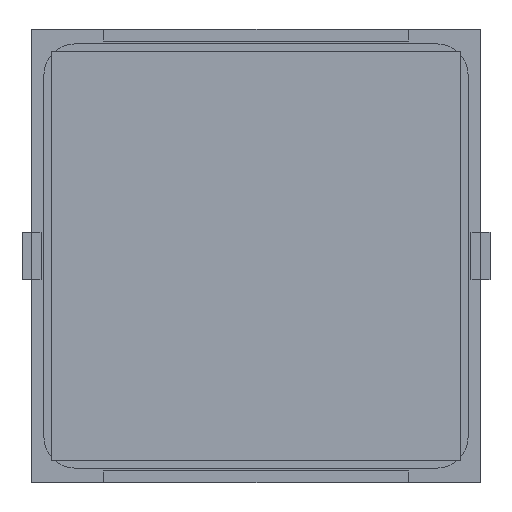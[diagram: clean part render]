
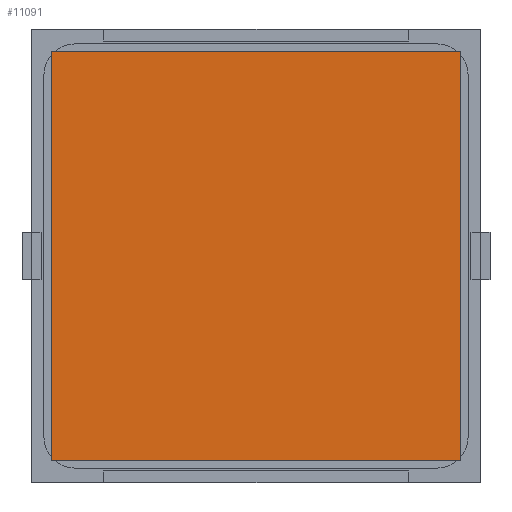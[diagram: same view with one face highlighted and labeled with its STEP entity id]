
A CAD part, front view. The second image highlights one B-rep face of the part: STEP entity #11091.
In plain terms, the highlighted planar face has unit normal (0, -1, 0).
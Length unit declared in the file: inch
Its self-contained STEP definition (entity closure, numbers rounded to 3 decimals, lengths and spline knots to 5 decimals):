
#184 = FACE_OUTER_BOUND ( 'NONE', #9844, .T. ) ;
#922 = CARTESIAN_POINT ( 'NONE',  ( -0.84646, -0.005, -0.84646 ) ) ;
#1029 = VERTEX_POINT ( 'NONE', #4645 ) ;
#1493 = EDGE_CURVE ( 'NONE', #12720, #1029, #10966, .T. ) ;
#1617 = EDGE_CURVE ( 'NONE', #1029, #6327, #4085, .T. ) ;
#2256 = VECTOR ( 'NONE', #6240, 39.37008 ) ;
#2375 = CARTESIAN_POINT ( 'NONE',  ( -0.84646, -0.005, 0.84646 ) ) ;
#2967 = CARTESIAN_POINT ( 'NONE',  ( -0.84646, -0.005, -0.84646 ) ) ;
#3098 = ORIENTED_EDGE ( 'NONE', *, *, #1617, .F. ) ;
#3218 = DIRECTION ( 'NONE',  ( -1., 0., 0. ) ) ;
#3318 = PLANE ( 'NONE',  #5033 ) ;
#3844 = VERTEX_POINT ( 'NONE', #2375 ) ;
#3849 = DIRECTION ( 'NONE',  ( 0., 0., 1. ) ) ;
#4085 = LINE ( 'NONE', #2967, #10243 ) ;
#4645 = CARTESIAN_POINT ( 'NONE',  ( 0.84646, -0.005, -0.84646 ) ) ;
#4928 = CARTESIAN_POINT ( 'NONE',  ( 0.84646, -0.005, -0.84646 ) ) ;
#5033 = AXIS2_PLACEMENT_3D ( 'NONE', #9404, #5155, #7364 ) ;
#5155 = DIRECTION ( 'NONE',  ( 0., 1., 0. ) ) ;
#5696 = ORIENTED_EDGE ( 'NONE', *, *, #1493, .F. ) ;
#6240 = DIRECTION ( 'NONE',  ( 1., 0., 0. ) ) ;
#6327 = VERTEX_POINT ( 'NONE', #11207 ) ;
#7202 = LINE ( 'NONE', #9220, #2256 ) ;
#7364 = DIRECTION ( 'NONE',  ( 0., 0., 1. ) ) ;
#7566 = CARTESIAN_POINT ( 'NONE',  ( 0.84646, -0.005, 0.84646 ) ) ;
#8827 = EDGE_CURVE ( 'NONE', #6327, #3844, #9908, .T. ) ;
#9220 = CARTESIAN_POINT ( 'NONE',  ( -0.84646, -0.005, 0.84646 ) ) ;
#9404 = CARTESIAN_POINT ( 'NONE',  ( -0.84646, -0.005, 0.84646 ) ) ;
#9844 = EDGE_LOOP ( 'NONE', ( #9893, #3098, #5696, #10545 ) ) ;
#9893 = ORIENTED_EDGE ( 'NONE', *, *, #8827, .F. ) ;
#9908 = LINE ( 'NONE', #922, #10116 ) ;
#10116 = VECTOR ( 'NONE', #3849, 39.37008 ) ;
#10243 = VECTOR ( 'NONE', #3218, 39.37008 ) ;
#10545 = ORIENTED_EDGE ( 'NONE', *, *, #12121, .F. ) ;
#10966 = LINE ( 'NONE', #4928, #11441 ) ;
#11091 = ADVANCED_FACE ( 'NONE', ( #184 ), #3318, .F. ) ;
#11207 = CARTESIAN_POINT ( 'NONE',  ( -0.84646, -0.005, -0.84646 ) ) ;
#11441 = VECTOR ( 'NONE', #13013, 39.37008 ) ;
#12121 = EDGE_CURVE ( 'NONE', #3844, #12720, #7202, .T. ) ;
#12720 = VERTEX_POINT ( 'NONE', #7566 ) ;
#13013 = DIRECTION ( 'NONE',  ( 0., 0., -1. ) ) ;
